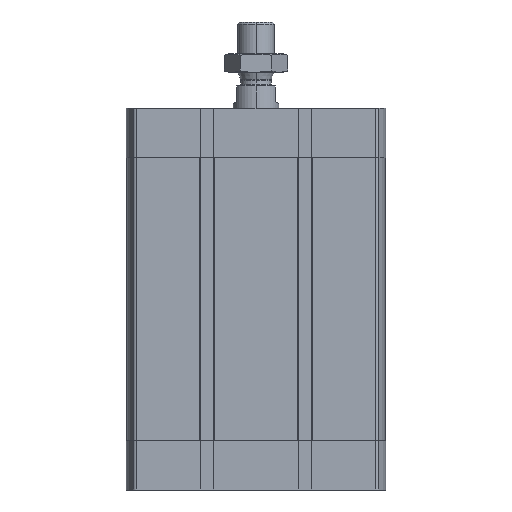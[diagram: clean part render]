
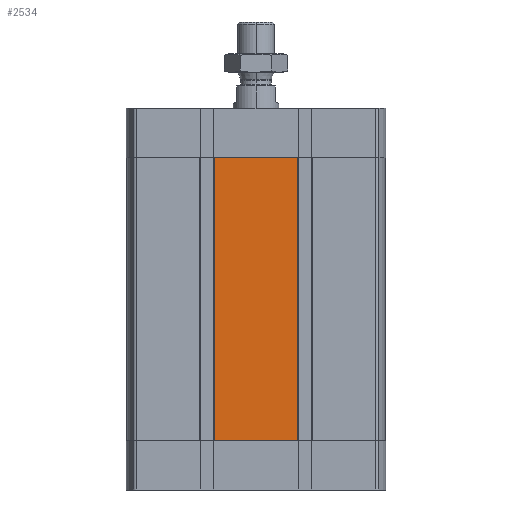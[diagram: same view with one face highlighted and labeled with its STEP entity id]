
A CAD part, left-side view. The second image highlights one B-rep face of the part: STEP entity #2534.
In plain terms, the highlighted planar face has unit normal (-1, 0, 0).
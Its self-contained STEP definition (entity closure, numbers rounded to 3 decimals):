
#641 = LINE ( 'NONE', #15346, #6623 ) ;
#1019 = LINE ( 'NONE', #2529, #2491 ) ;
#1156 = CARTESIAN_POINT ( 'NONE',  ( -56.5, -18.345, -21.5 ) ) ;
#1599 = VERTEX_POINT ( 'NONE', #1156 ) ;
#2418 = CARTESIAN_POINT ( 'NONE',  ( -56.5, 18.345, -21.5 ) ) ;
#2491 = VECTOR ( 'NONE', #17137, 1000. ) ;
#2501 = FACE_OUTER_BOUND ( 'NONE', #19588, .T. ) ;
#2529 = CARTESIAN_POINT ( 'NONE',  ( -56.5, 18.345, -145.5 ) ) ;
#2534 = ADVANCED_FACE ( 'NONE', ( #2501 ), #20649, .T. ) ;
#2644 = DIRECTION ( 'NONE',  ( 0., 0., 1. ) ) ;
#3794 = CARTESIAN_POINT ( 'NONE',  ( -56.5, 18.345, -21.5 ) ) ;
#4123 = EDGE_CURVE ( 'NONE', #9671, #14999, #20573, .T. ) ;
#5355 = DIRECTION ( 'NONE',  ( 0., 0., 1. ) ) ;
#5360 = ORIENTED_EDGE ( 'NONE', *, *, #7376, .T. ) ;
#5761 = ORIENTED_EDGE ( 'NONE', *, *, #13010, .F. ) ;
#6623 = VECTOR ( 'NONE', #5355, 1000. ) ;
#7252 = VECTOR ( 'NONE', #9266, 1000. ) ;
#7376 = EDGE_CURVE ( 'NONE', #13856, #1599, #641, .T. ) ;
#7457 = CARTESIAN_POINT ( 'NONE',  ( -56.5, 18.345, -145.5 ) ) ;
#9032 = DIRECTION ( 'NONE',  ( -1., 0., 0. ) ) ;
#9266 = DIRECTION ( 'NONE',  ( 0., -1., 0. ) ) ;
#9671 = VERTEX_POINT ( 'NONE', #18233 ) ;
#11168 = AXIS2_PLACEMENT_3D ( 'NONE', #15704, #9032, #19050 ) ;
#12241 = CARTESIAN_POINT ( 'NONE',  ( -56.5, -18.345, -145.5 ) ) ;
#12289 = ORIENTED_EDGE ( 'NONE', *, *, #20809, .T. ) ;
#13010 = EDGE_CURVE ( 'NONE', #14999, #1599, #17143, .T. ) ;
#13856 = VERTEX_POINT ( 'NONE', #12241 ) ;
#13968 = ORIENTED_EDGE ( 'NONE', *, *, #4123, .F. ) ;
#14999 = VERTEX_POINT ( 'NONE', #3794 ) ;
#15346 = CARTESIAN_POINT ( 'NONE',  ( -56.5, -18.345, -145.5 ) ) ;
#15704 = CARTESIAN_POINT ( 'NONE',  ( -56.5, 18.345, -145.5 ) ) ;
#17137 = DIRECTION ( 'NONE',  ( 0., -1., 0. ) ) ;
#17143 = LINE ( 'NONE', #2418, #7252 ) ;
#18233 = CARTESIAN_POINT ( 'NONE',  ( -56.5, 18.345, -145.5 ) ) ;
#18989 = VECTOR ( 'NONE', #2644, 1000. ) ;
#19050 = DIRECTION ( 'NONE',  ( 0., 0., 1. ) ) ;
#19588 = EDGE_LOOP ( 'NONE', ( #5761, #13968, #12289, #5360 ) ) ;
#20573 = LINE ( 'NONE', #7457, #18989 ) ;
#20649 = PLANE ( 'NONE',  #11168 ) ;
#20809 = EDGE_CURVE ( 'NONE', #9671, #13856, #1019, .T. ) ;
